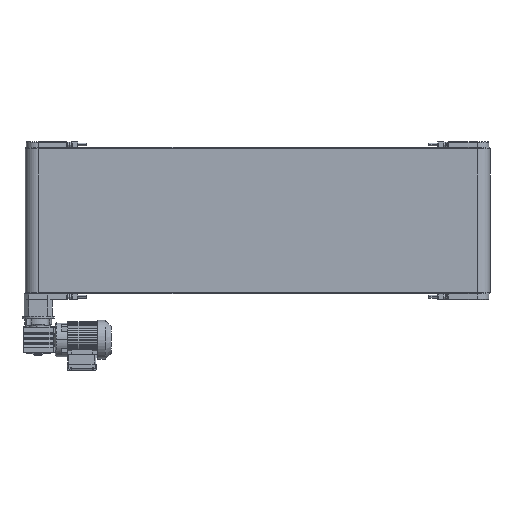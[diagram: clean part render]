
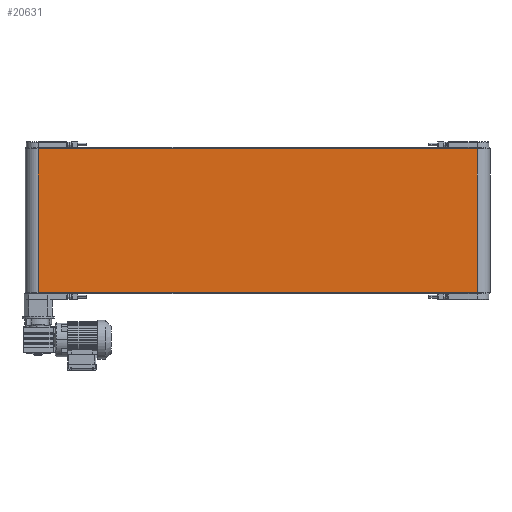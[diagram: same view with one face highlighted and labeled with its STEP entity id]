
A CAD part, front view. The second image highlights one B-rep face of the part: STEP entity #20631.
In plain terms, the highlighted planar face has unit normal (0, -1, 0).
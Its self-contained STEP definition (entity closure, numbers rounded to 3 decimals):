
#20631=ADVANCED_FACE('',(#41983),#41984,.F.);
#41983=FACE_OUTER_BOUND('',#52573,.T.);
#41984=PLANE('',#52574);
#52573=EDGE_LOOP('',(#78616,#78617,#78618,#78619));
#52574=AXIS2_PLACEMENT_3D('',#78620,#78621,#78622);
#78616=ORIENTED_EDGE('',*,*,#98468,.F.);
#78617=ORIENTED_EDGE('',*,*,#98469,.F.);
#78618=ORIENTED_EDGE('',*,*,#98463,.F.);
#78619=ORIENTED_EDGE('',*,*,#98465,.F.);
#78620=CARTESIAN_POINT('',(700.0,-23.5,-230.0));
#78621=DIRECTION('',(0.0,1.0,0.0));
#78622=DIRECTION('',(0.0,0.0,1.0));
#98463=EDGE_CURVE('',#115439,#115441,#115442,.T.);
#98465=EDGE_CURVE('',#115444,#115439,#115445,.T.);
#98468=EDGE_CURVE('',#115448,#115444,#115449,.T.);
#98469=EDGE_CURVE('',#115441,#115448,#115450,.T.);
#115439=VERTEX_POINT('',#127657);
#115441=VERTEX_POINT('',#127659);
#115442=LINE('',#127660,#127661);
#115444=VERTEX_POINT('',#127663);
#115445=LINE('',#127664,#127665);
#115448=VERTEX_POINT('',#127669);
#115449=LINE('',#127670,#127671);
#115450=LINE('',#127672,#127673);
#127657=CARTESIAN_POINT('',(1450.0,-23.5,15.0));
#127659=CARTESIAN_POINT('',(1450.0,-23.5,-475.0));
#127660=CARTESIAN_POINT('',(1450.0,-23.5,-230.0));
#127661=VECTOR('',#136578,1.0);
#127663=CARTESIAN_POINT('',(-50.0,-23.5,15.0));
#127664=CARTESIAN_POINT('',(700.0,-23.5,15.0));
#127665=VECTOR('',#136582,1.0);
#127669=CARTESIAN_POINT('',(-50.0,-23.5,-475.0));
#127670=CARTESIAN_POINT('',(-50.0,-23.5,-230.0));
#127671=VECTOR('',#136587,1.0);
#127672=CARTESIAN_POINT('',(700.0,-23.5,-475.0));
#127673=VECTOR('',#136588,1.0);
#136578=DIRECTION('',(0.0,0.0,-1.0));
#136582=DIRECTION('',(1.0,0.0,0.0));
#136587=DIRECTION('',(0.0,0.0,1.0));
#136588=DIRECTION('',(-1.0,0.0,0.0));
